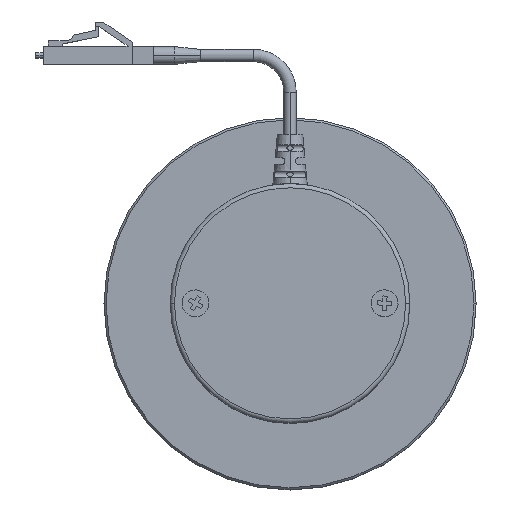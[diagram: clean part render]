
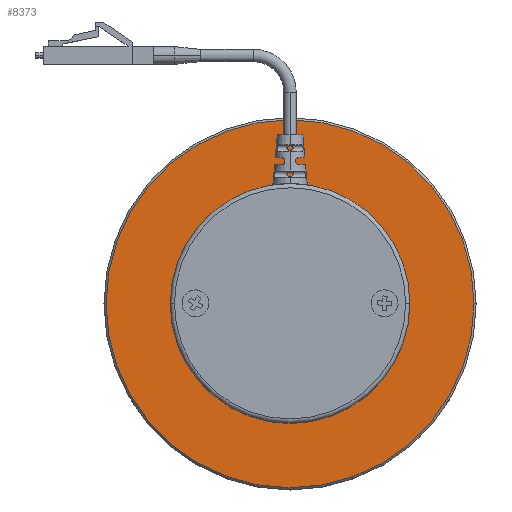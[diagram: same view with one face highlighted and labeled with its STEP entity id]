
A CAD part, top view. The second image highlights one B-rep face of the part: STEP entity #8373.
In plain terms, the highlighted planar face has unit normal (0, 0, 1).
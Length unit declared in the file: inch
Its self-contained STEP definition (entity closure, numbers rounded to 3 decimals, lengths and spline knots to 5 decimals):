
#330 = DIRECTION ( 'NONE',  ( -1., 0., 0. ) ) ;
#917 = DIRECTION ( 'NONE',  ( 0., 0., 1. ) ) ;
#953 = CARTESIAN_POINT ( 'NONE',  ( 0., 0., 0. ) ) ;
#990 = CIRCLE ( 'NONE', #2728, 1.1405 ) ;
#1149 = AXIS2_PLACEMENT_3D ( 'NONE', #6177, #5501, #5536 ) ;
#1511 = VERTEX_POINT ( 'NONE', #6371 ) ;
#1527 = ORIENTED_EDGE ( 'NONE', *, *, #8261, .F. ) ;
#1883 = ORIENTED_EDGE ( 'NONE', *, *, #6975, .T. ) ;
#1994 = AXIS2_PLACEMENT_3D ( 'NONE', #3362, #9772, #6063 ) ;
#2065 = AXIS2_PLACEMENT_3D ( 'NONE', #10509, #11315, #330 ) ;
#2541 = CIRCLE ( 'NONE', #7884, 1.75165 ) ;
#2728 = AXIS2_PLACEMENT_3D ( 'NONE', #953, #917, #3718 ) ;
#2738 = CARTESIAN_POINT ( 'NONE',  ( -1.75165, 0., 0. ) ) ;
#3362 = CARTESIAN_POINT ( 'NONE',  ( 0., 0., 0. ) ) ;
#3539 = EDGE_CURVE ( 'NONE', #5088, #1511, #3763, .T. ) ;
#3718 = DIRECTION ( 'NONE',  ( -1., 0., 0. ) ) ;
#3763 = CIRCLE ( 'NONE', #1149, 1.75165 ) ;
#4796 = FACE_BOUND ( 'NONE', #11320, .T. ) ;
#5088 = VERTEX_POINT ( 'NONE', #2738 ) ;
#5303 = ORIENTED_EDGE ( 'NONE', *, *, #3539, .T. ) ;
#5501 = DIRECTION ( 'NONE',  ( 0., 0., 1. ) ) ;
#5536 = DIRECTION ( 'NONE',  ( -1., 0., 0. ) ) ;
#5639 = EDGE_CURVE ( 'NONE', #11830, #6993, #990, .T. ) ;
#5651 = FACE_OUTER_BOUND ( 'NONE', #7901, .T. ) ;
#5943 = CIRCLE ( 'NONE', #2065, 1.1405 ) ;
#6063 = DIRECTION ( 'NONE',  ( -1., 0., 0. ) ) ;
#6177 = CARTESIAN_POINT ( 'NONE',  ( 0., 0., 0. ) ) ;
#6371 = CARTESIAN_POINT ( 'NONE',  ( 1.75165, 0., 0. ) ) ;
#6606 = ORIENTED_EDGE ( 'NONE', *, *, #5639, .F. ) ;
#6975 = EDGE_CURVE ( 'NONE', #1511, #5088, #2541, .T. ) ;
#6993 = VERTEX_POINT ( 'NONE', #7917 ) ;
#7269 = DIRECTION ( 'NONE',  ( -1., 0., 0. ) ) ;
#7884 = AXIS2_PLACEMENT_3D ( 'NONE', #9748, #8147, #7269 ) ;
#7901 = EDGE_LOOP ( 'NONE', ( #5303, #1883 ) ) ;
#7917 = CARTESIAN_POINT ( 'NONE',  ( 1.1405, 0., 0. ) ) ;
#8147 = DIRECTION ( 'NONE',  ( 0., 0., 1. ) ) ;
#8261 = EDGE_CURVE ( 'NONE', #6993, #11830, #5943, .T. ) ;
#8373 = ADVANCED_FACE ( 'NONE', ( #5651, #4796 ), #10693, .F. ) ;
#9145 = CARTESIAN_POINT ( 'NONE',  ( -1.1405, 0., 0. ) ) ;
#9748 = CARTESIAN_POINT ( 'NONE',  ( 0., 0., 0. ) ) ;
#9772 = DIRECTION ( 'NONE',  ( 0., 0., -1. ) ) ;
#10509 = CARTESIAN_POINT ( 'NONE',  ( 0., 0., 0. ) ) ;
#10693 = PLANE ( 'NONE',  #1994 ) ;
#11315 = DIRECTION ( 'NONE',  ( 0., 0., 1. ) ) ;
#11320 = EDGE_LOOP ( 'NONE', ( #6606, #1527 ) ) ;
#11830 = VERTEX_POINT ( 'NONE', #9145 ) ;
